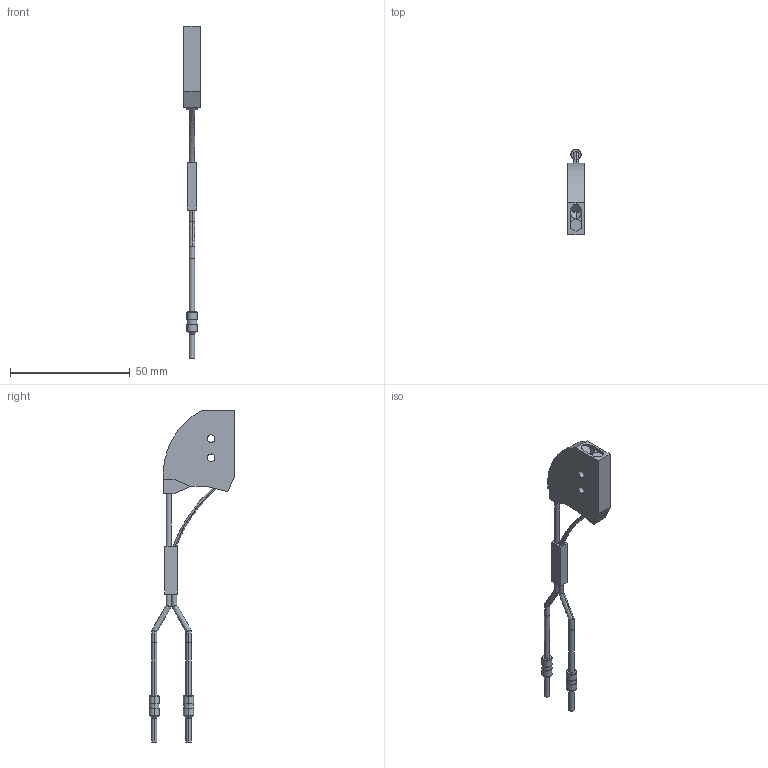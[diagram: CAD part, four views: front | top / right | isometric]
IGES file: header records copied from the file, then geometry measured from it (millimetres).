
Start section: SolidWorks IGES FILE using analytic representation for surfaces
Global section: file name: \\intra-srv04\開発データ\CAD_Data\CAD委員会\3D電子ｶﾀﾛｸﾞ\製品カタログ（新）\0_IGES\FD-L53.IGS,41HSolidWorks 2004; native system: by SolidWorks Corporation; preprocessor: Version 5.3; author: yk0651; date: 051025.130949; units: millimetre
Bounding box: 7 x 35.97 x 138.9 mm (x, y, z)
Volume: 7003.6 mm3; surface area: 4474.8 mm2
Topology: 3 solids, 3 shells, 96 faces, 215 edges, 136 vertices
Faces by surface type: revolution 51, plane 43, bspline 2
